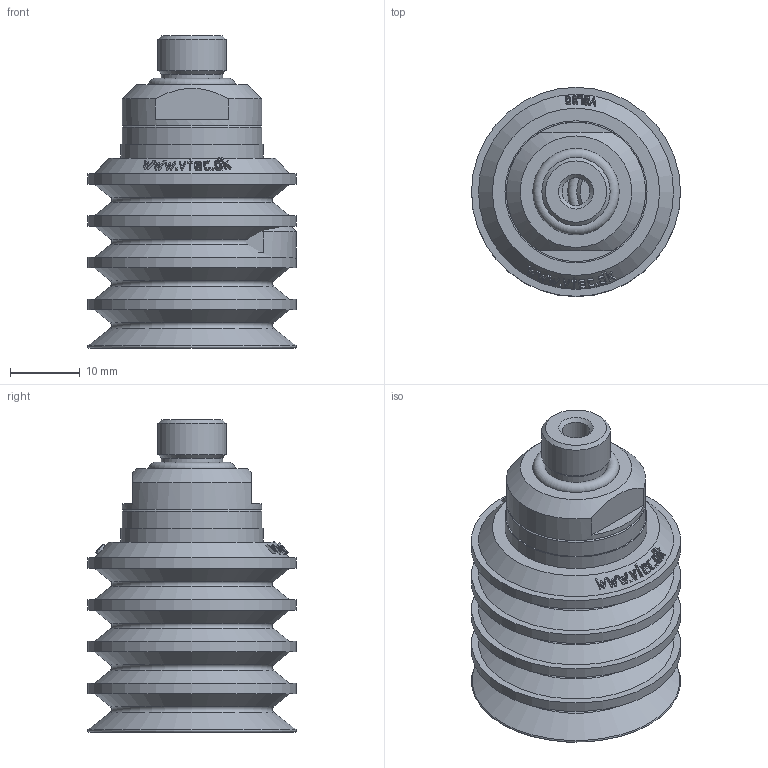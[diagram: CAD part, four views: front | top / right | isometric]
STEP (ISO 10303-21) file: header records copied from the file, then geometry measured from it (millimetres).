
FILE_DESCRIPTION( ( 'STEP AP203' ), '1' );
FILE_NAME( 'C:/撲啗紫賊-02/3D-蘋驍煎斜/Vacuum Pad/VBL series/VBL30-18M.stp', '2006-04-24T11:49:07', ( ' ' ), ( ' ' ), 'XStep 1.0', ' ', ' ' );
FILE_SCHEMA( ( 'CONFIG_CONTROL_DESIGN) ( )' ) );
Length unit declared in the file: metre
Products named in the file (3): Assem1; 1; 2
Bounding box: 30 x 30 x 44.8 mm (x, y, z)
Volume: 13828.4 mm3; surface area: 20122.1 mm2
Topology: 4 solids, 4 shells, 464 faces, 1066 edges, 692 vertices
Faces by surface type: bspline 258, cone 96, plane 60, cylinder 38, torus 12
Full cylindrical faces by diameter (mm): 4 x2, 6.2 x2, 6.5 x2, 7 x2, 8 x6, 8.8 x2, 9 x2, 9.8 x2, 11 x2, 11.5 x2, 20 x4, 20.4 x2, 30 x8
Entity records: 10237 total; most frequent: CARTESIAN_POINT 5937, ORIENTED_EDGE 956, DIRECTION 482, EDGE_CURVE 478, VERTEX_POINT 345, EDGE_LOOP 331, B_SPLINE_CURVE_WITH_KNOTS 287, FACE_OUTER_BOUND 259
